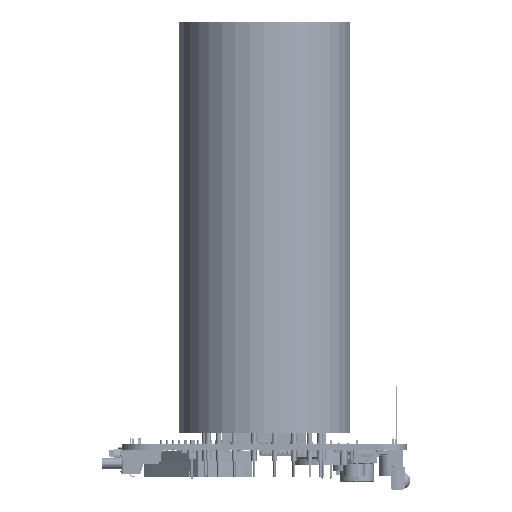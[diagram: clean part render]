
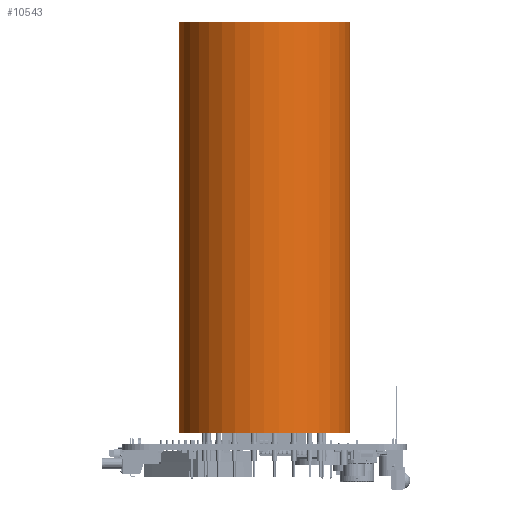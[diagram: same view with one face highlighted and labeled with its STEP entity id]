
A CAD part, left-side view. The second image highlights one B-rep face of the part: STEP entity #10543.
In plain terms, the highlighted cylindrical face has radius 25 mm (diameter 50 mm), a full revolution.
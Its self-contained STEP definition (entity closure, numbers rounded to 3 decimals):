
#10543 = ADVANCED_FACE('',(#10544),#10571,.T.);
#10544 = FACE_BOUND('',#10545,.T.);
#10545 = EDGE_LOOP('',(#10546,#10555,#10563,#10570));
#10546 = ORIENTED_EDGE('',*,*,#10547,.T.);
#10547 = EDGE_CURVE('',#10548,#10548,#10550,.T.);
#10548 = VERTEX_POINT('',#10549);
#10549 = CARTESIAN_POINT('',(65.248,41.586,
    123.309));
#10550 = CIRCLE('',#10551,25.);
#10551 = AXIS2_PLACEMENT_3D('',#10552,#10553,#10554);
#10552 = CARTESIAN_POINT('',(40.248,41.586,
    123.309));
#10553 = DIRECTION('',(0.,0.,-1.));
#10554 = DIRECTION('',(1.,0.,0.));
#10555 = ORIENTED_EDGE('',*,*,#10556,.T.);
#10556 = EDGE_CURVE('',#10548,#10557,#10559,.T.);
#10557 = VERTEX_POINT('',#10558);
#10558 = CARTESIAN_POINT('',(65.248,41.586,
    3.309));
#10559 = LINE('',#10560,#10561);
#10560 = CARTESIAN_POINT('',(65.248,41.586,
    123.309));
#10561 = VECTOR('',#10562,1.);
#10562 = DIRECTION('',(0.,0.,-1.));
#10563 = ORIENTED_EDGE('',*,*,#10564,.F.);
#10564 = EDGE_CURVE('',#10557,#10557,#10565,.T.);
#10565 = CIRCLE('',#10566,25.);
#10566 = AXIS2_PLACEMENT_3D('',#10567,#10568,#10569);
#10567 = CARTESIAN_POINT('',(40.248,41.586,
    3.309));
#10568 = DIRECTION('',(0.,0.,-1.));
#10569 = DIRECTION('',(1.,0.,0.));
#10570 = ORIENTED_EDGE('',*,*,#10556,.F.);
#10571 = CYLINDRICAL_SURFACE('',#10572,25.);
#10572 = AXIS2_PLACEMENT_3D('',#10573,#10574,#10575);
#10573 = CARTESIAN_POINT('',(40.248,41.586,
    123.309));
#10574 = DIRECTION('',(0.,0.,1.));
#10575 = DIRECTION('',(1.,0.,0.));
